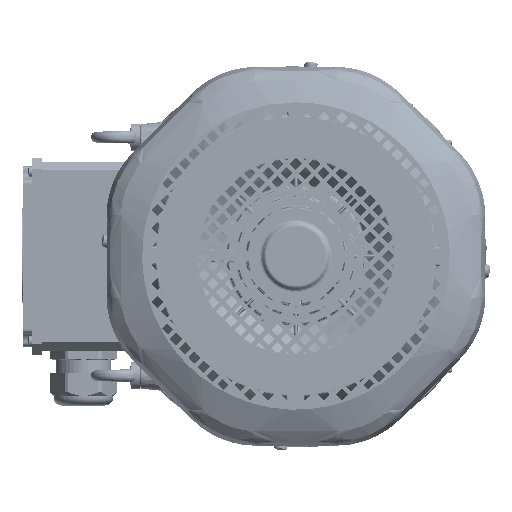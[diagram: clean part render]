
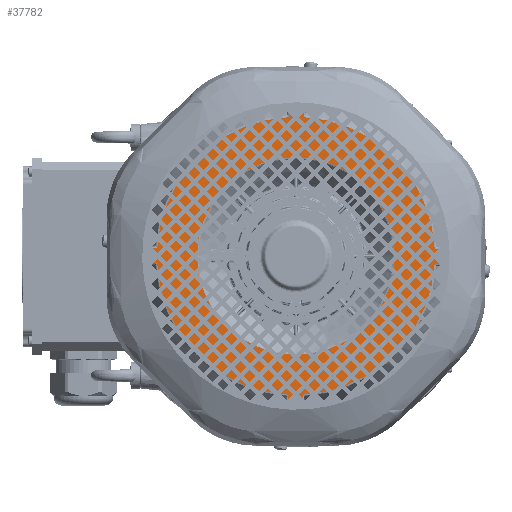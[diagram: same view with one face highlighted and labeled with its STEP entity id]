
A CAD part, top view. The second image highlights one B-rep face of the part: STEP entity #37782.
In plain terms, the highlighted planar face has unit normal (0, 0, 1).
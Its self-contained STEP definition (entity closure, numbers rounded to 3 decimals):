
#37782=ADVANCED_FACE('31-0-385',(#74416,#74417),#45748,.T.);
#45748=PLANE('',#230479);
#53016=LINE('',#393462,#65875);
#53018=LINE('',#393470,#65877);
#53019=LINE('',#393473,#65878);
#53020=LINE('',#393477,#65879);
#53021=LINE('',#393479,#65880);
#53022=LINE('',#393481,#65881);
#53023=LINE('',#393485,#65882);
#53024=LINE('',#393487,#65883);
#53025=LINE('',#393489,#65884);
#53026=LINE('',#393493,#65885);
#53027=LINE('',#393495,#65886);
#53028=LINE('',#393498,#65887);
#65875=VECTOR('',#267632,1.);
#65877=VECTOR('',#267640,1.);
#65878=VECTOR('',#267641,1.);
#65879=VECTOR('',#267644,1.);
#65880=VECTOR('',#267645,1.);
#65881=VECTOR('',#267646,1.);
#65882=VECTOR('',#267649,1.);
#65883=VECTOR('',#267650,1.);
#65884=VECTOR('',#267651,1.);
#65885=VECTOR('',#267654,1.);
#65886=VECTOR('',#267655,1.);
#65887=VECTOR('',#267658,1.);
#74416=FACE_BOUND('',#82671,.T.);
#74417=FACE_BOUND('',#82672,.T.);
#82671=EDGE_LOOP('',(#120521));
#82672=EDGE_LOOP('',(#120522,#120523,#120524,#120525,#120526,#120527,#120528,
#120529,#120530,#120531,#120532,#120533,#120534,#120535,#120536,#120537));
#120521=ORIENTED_EDGE('',*,*,#191418,.T.);
#120522=ORIENTED_EDGE('',*,*,#191419,.T.);
#120523=ORIENTED_EDGE('',*,*,#191420,.T.);
#120524=ORIENTED_EDGE('',*,*,#191421,.T.);
#120525=ORIENTED_EDGE('',*,*,#191422,.T.);
#120526=ORIENTED_EDGE('',*,*,#191423,.T.);
#120527=ORIENTED_EDGE('',*,*,#191424,.T.);
#120528=ORIENTED_EDGE('',*,*,#191425,.T.);
#120529=ORIENTED_EDGE('',*,*,#191426,.T.);
#120530=ORIENTED_EDGE('',*,*,#191427,.T.);
#120531=ORIENTED_EDGE('',*,*,#191428,.T.);
#120532=ORIENTED_EDGE('',*,*,#191429,.T.);
#120533=ORIENTED_EDGE('',*,*,#191430,.T.);
#120534=ORIENTED_EDGE('',*,*,#191431,.T.);
#120535=ORIENTED_EDGE('',*,*,#191415,.T.);
#120536=ORIENTED_EDGE('',*,*,#191432,.T.);
#120537=ORIENTED_EDGE('',*,*,#191433,.T.);
#165064=VERTEX_POINT('',#393438);
#165065=VERTEX_POINT('',#393463);
#165067=VERTEX_POINT('',#393469);
#165068=VERTEX_POINT('',#393471);
#165069=VERTEX_POINT('',#393472);
#165070=VERTEX_POINT('',#393474);
#165071=VERTEX_POINT('',#393476);
#165072=VERTEX_POINT('',#393478);
#165073=VERTEX_POINT('',#393480);
#165074=VERTEX_POINT('',#393482);
#165075=VERTEX_POINT('',#393484);
#165076=VERTEX_POINT('',#393486);
#165077=VERTEX_POINT('',#393488);
#165078=VERTEX_POINT('',#393490);
#165079=VERTEX_POINT('',#393492);
#165080=VERTEX_POINT('',#393494);
#165081=VERTEX_POINT('',#393497);
#191415=EDGE_CURVE('',#165065,#165064,#53016,.T.);
#191418=EDGE_CURVE('',#165067,#165067,#214095,.T.);
#191419=EDGE_CURVE('',#165068,#165069,#53018,.T.);
#191420=EDGE_CURVE('',#165069,#165070,#53019,.T.);
#191421=EDGE_CURVE('',#165070,#165071,#214096,.T.);
#191422=EDGE_CURVE('',#165071,#165072,#53020,.T.);
#191423=EDGE_CURVE('',#165072,#165073,#53021,.T.);
#191424=EDGE_CURVE('',#165073,#165074,#53022,.T.);
#191425=EDGE_CURVE('',#165074,#165075,#214097,.T.);
#191426=EDGE_CURVE('',#165075,#165076,#53023,.T.);
#191427=EDGE_CURVE('',#165076,#165077,#53024,.T.);
#191428=EDGE_CURVE('',#165077,#165078,#53025,.T.);
#191429=EDGE_CURVE('',#165078,#165079,#214098,.T.);
#191430=EDGE_CURVE('',#165079,#165080,#53026,.T.);
#191431=EDGE_CURVE('',#165080,#165065,#53027,.T.);
#191432=EDGE_CURVE('',#165064,#165081,#214099,.T.);
#191433=EDGE_CURVE('',#165081,#165068,#53028,.T.);
#214095=CIRCLE('',#230474,90.828);
#214096=CIRCLE('',#230475,127.845);
#214097=CIRCLE('',#230476,127.845);
#214098=CIRCLE('',#230477,127.845);
#214099=CIRCLE('',#230478,127.845);
#230474=AXIS2_PLACEMENT_3D('',#393468,#267638,#267639);
#230475=AXIS2_PLACEMENT_3D('',#393475,#267642,#267643);
#230476=AXIS2_PLACEMENT_3D('',#393483,#267647,#267648);
#230477=AXIS2_PLACEMENT_3D('',#393491,#267652,#267653);
#230478=AXIS2_PLACEMENT_3D('',#393496,#267656,#267657);
#230479=AXIS2_PLACEMENT_3D('',#393499,#267659,#267660);
#267632=DIRECTION('',(-0.004,-1.,0.));
#267638=DIRECTION('',(0.,0.,-1.));
#267639=DIRECTION('',(0.,1.,0.));
#267640=DIRECTION('',(-0.004,-1.,0.));
#267641=DIRECTION('',(1.,-0.004,0.));
#267642=DIRECTION('',(0.,0.,1.));
#267643=DIRECTION('',(-0.999,-0.051,0.));
#267644=DIRECTION('',(-0.004,-1.,0.));
#267645=DIRECTION('',(1.,-0.004,0.));
#267646=DIRECTION('',(0.004,1.,0.));
#267647=DIRECTION('',(0.,0.,1.));
#267648=DIRECTION('',(0.051,-0.999,0.));
#267649=DIRECTION('',(1.,-0.004,0.));
#267650=DIRECTION('',(0.004,1.,0.));
#267651=DIRECTION('',(-1.,0.004,0.));
#267652=DIRECTION('',(0.,0.,1.));
#267653=DIRECTION('',(0.999,0.051,0.));
#267654=DIRECTION('',(0.004,1.,0.));
#267655=DIRECTION('',(-1.,0.004,0.));
#267656=DIRECTION('',(0.,0.,1.));
#267657=DIRECTION('',(-0.051,0.999,0.));
#267658=DIRECTION('',(-1.,0.004,0.));
#267659=DIRECTION('',(0.,0.,1.));
#267660=DIRECTION('',(1.,0.,0.));
#393438=CARTESIAN_POINT('',(-6.481,127.681,1409.));
#393462=CARTESIAN_POINT('',(-6.457,133.03,1409.));
#393463=CARTESIAN_POINT('',(-6.457,133.03,1409.));
#393468=CARTESIAN_POINT('',(0.,0.,
1409.));
#393469=CARTESIAN_POINT('',(0.,90.828,1409.));
#393470=CARTESIAN_POINT('',(-132.967,7.645,1409.));
#393471=CARTESIAN_POINT('',(-132.967,7.645,1409.));
#393472=CARTESIAN_POINT('',(-133.03,-6.457,1409.));
#393473=CARTESIAN_POINT('',(-133.03,-6.457,1409.));
#393474=CARTESIAN_POINT('',(-127.681,-6.481,1409.));
#393475=CARTESIAN_POINT('',(0.,0.,
1409.));
#393476=CARTESIAN_POINT('',(-7.621,-127.618,1409.));
#393477=CARTESIAN_POINT('',(-7.621,-127.618,1409.));
#393478=CARTESIAN_POINT('',(-7.645,-132.967,1409.));
#393479=CARTESIAN_POINT('',(-7.645,-132.967,1409.));
#393480=CARTESIAN_POINT('',(6.457,-133.03,1409.));
#393481=CARTESIAN_POINT('',(6.457,-133.03,1409.));
#393482=CARTESIAN_POINT('',(6.481,-127.681,1409.));
#393483=CARTESIAN_POINT('',(0.,0.,
1409.));
#393484=CARTESIAN_POINT('',(127.618,-7.621,1409.));
#393485=CARTESIAN_POINT('',(127.618,-7.621,1409.));
#393486=CARTESIAN_POINT('',(132.967,-7.645,1409.));
#393487=CARTESIAN_POINT('',(132.967,-7.645,1409.));
#393488=CARTESIAN_POINT('',(133.03,6.457,1409.));
#393489=CARTESIAN_POINT('',(133.03,6.457,1409.));
#393490=CARTESIAN_POINT('',(127.681,6.481,1409.));
#393491=CARTESIAN_POINT('',(0.,0.,
1409.));
#393492=CARTESIAN_POINT('',(7.621,127.618,1409.));
#393493=CARTESIAN_POINT('',(7.621,127.618,1409.));
#393494=CARTESIAN_POINT('',(7.645,132.967,1409.));
#393495=CARTESIAN_POINT('',(7.645,132.967,1409.));
#393496=CARTESIAN_POINT('',(0.,0.,
1409.));
#393497=CARTESIAN_POINT('',(-127.618,7.621,1409.));
#393498=CARTESIAN_POINT('',(-127.618,7.621,1409.));
#393499=CARTESIAN_POINT('',(-140.83,-140.83,1409.));
